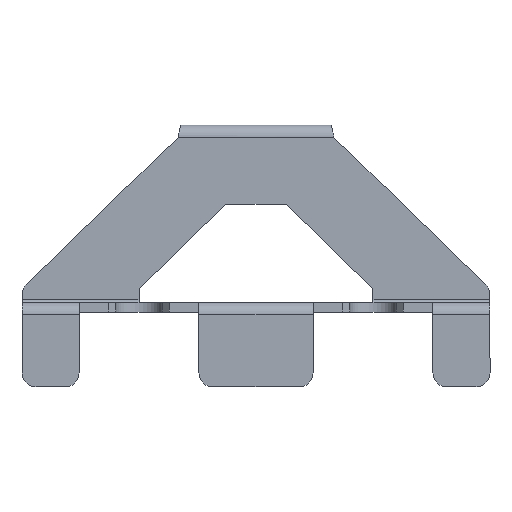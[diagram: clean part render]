
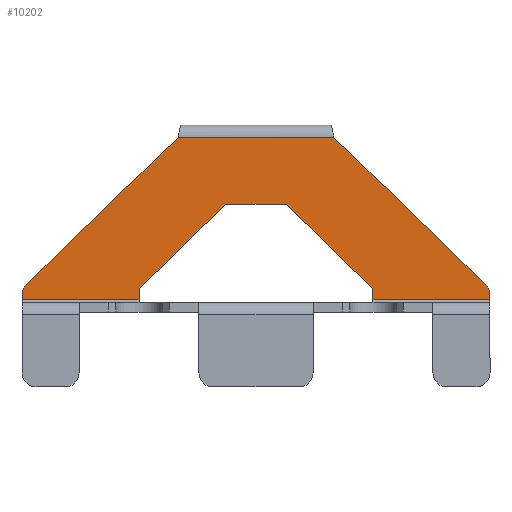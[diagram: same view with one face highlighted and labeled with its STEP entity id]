
A CAD part, front view. The second image highlights one B-rep face of the part: STEP entity #10202.
In plain terms, the highlighted planar face has unit normal (0, -1, 0).
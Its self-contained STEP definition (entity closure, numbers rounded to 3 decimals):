
#703 = DIRECTION ( 'NONE',  ( 0., 0., -1. ) ) ;
#867 = DIRECTION ( 'NONE',  ( -1., 0., 0. ) ) ;
#1256 = CARTESIAN_POINT ( 'NONE',  ( 25., -26.8, -34.95 ) ) ;
#1291 = ORIENTED_EDGE ( 'NONE', *, *, #19111, .F. ) ;
#1551 = AXIS2_PLACEMENT_3D ( 'NONE', #30520, #8631, #27879 ) ;
#1766 = CARTESIAN_POINT ( 'NONE',  ( -25., -26.8, 0. ) ) ;
#2068 = VECTOR ( 'NONE', #23478, 1000. ) ;
#2137 = VECTOR ( 'NONE', #4963, 1000. ) ;
#2358 = DIRECTION ( 'NONE',  ( 0., 1., 0. ) ) ;
#2433 = VERTEX_POINT ( 'NONE', #16130 ) ;
#3100 = VERTEX_POINT ( 'NONE', #25609 ) ;
#3633 = CARTESIAN_POINT ( 'NONE',  ( -5.358, -26.8, -5.529 ) ) ;
#3653 = EDGE_CURVE ( 'NONE', #29523, #23992, #9104, .T. ) ;
#4377 = FACE_OUTER_BOUND ( 'NONE', #26677, .T. ) ;
#4963 = DIRECTION ( 'NONE',  ( 0.718, 0., 0.696 ) ) ;
#5216 = AXIS2_PLACEMENT_3D ( 'NONE', #22879, #25217, #30342 ) ;
#5275 = ORIENTED_EDGE ( 'NONE', *, *, #13767, .F. ) ;
#5369 = CARTESIAN_POINT ( 'NONE',  ( -50., -26.8, -37.35 ) ) ;
#5806 = ORIENTED_EDGE ( 'NONE', *, *, #18346, .T. ) ;
#6085 = VECTOR ( 'NONE', #703, 1000. ) ;
#6130 = LINE ( 'NONE', #1766, #27393 ) ;
#6284 = CARTESIAN_POINT ( 'NONE',  ( -50., -26.8, -37.35 ) ) ;
#6494 = CIRCLE ( 'NONE', #1551, 3. ) ;
#6502 = CARTESIAN_POINT ( 'NONE',  ( 0., -26.8, -16.95 ) ) ;
#7218 = ORIENTED_EDGE ( 'NONE', *, *, #18673, .T. ) ;
#7884 = DIRECTION ( 'NONE',  ( 1., 0., 0. ) ) ;
#7998 = CARTESIAN_POINT ( 'NONE',  ( 25., -26.8, -37.35 ) ) ;
#8314 = DIRECTION ( 'NONE',  ( -1., 0., 0. ) ) ;
#8631 = DIRECTION ( 'NONE',  ( 0., -1., 0. ) ) ;
#8929 = CARTESIAN_POINT ( 'NONE',  ( 25., -26.8, 0. ) ) ;
#9104 = CIRCLE ( 'NONE', #5216, 3. ) ;
#9390 = ORIENTED_EDGE ( 'NONE', *, *, #30143, .F. ) ;
#9596 = CARTESIAN_POINT ( 'NONE',  ( 16.619, -26.8, -2.6 ) ) ;
#9607 = DIRECTION ( 'NONE',  ( 0., 0., 1. ) ) ;
#9676 = VECTOR ( 'NONE', #17607, 1000. ) ;
#10023 = VERTEX_POINT ( 'NONE', #14066 ) ;
#10202 = ADVANCED_FACE ( 'NONE', ( #4377 ), #20685, .F. ) ;
#10458 = ORIENTED_EDGE ( 'NONE', *, *, #16480, .F. ) ;
#11473 = CARTESIAN_POINT ( 'NONE',  ( 5.358, -26.8, -5.529 ) ) ;
#11680 = CARTESIAN_POINT ( 'NONE',  ( 6.426, -26.8, -16.95 ) ) ;
#11900 = CARTESIAN_POINT ( 'NONE',  ( -16.619, -26.8, -2.6 ) ) ;
#11915 = LINE ( 'NONE', #21409, #14935 ) ;
#11932 = LINE ( 'NONE', #11473, #2137 ) ;
#12786 = LINE ( 'NONE', #26797, #6085 ) ;
#12823 = EDGE_CURVE ( 'NONE', #13849, #16662, #26660, .T. ) ;
#13429 = VERTEX_POINT ( 'NONE', #1256 ) ;
#13530 = ORIENTED_EDGE ( 'NONE', *, *, #16058, .T. ) ;
#13767 = EDGE_CURVE ( 'NONE', #2433, #24016, #25382, .T. ) ;
#13849 = VERTEX_POINT ( 'NONE', #15438 ) ;
#13902 = CARTESIAN_POINT ( 'NONE',  ( -16., -26.8, -2. ) ) ;
#13987 = CARTESIAN_POINT ( 'NONE',  ( 50., -26.8, -34.95 ) ) ;
#14066 = CARTESIAN_POINT ( 'NONE',  ( -50., -26.8, -36.22 ) ) ;
#14093 = DIRECTION ( 'NONE',  ( 1., 0., 0. ) ) ;
#14566 = ORIENTED_EDGE ( 'NONE', *, *, #16115, .T. ) ;
#14581 = ORIENTED_EDGE ( 'NONE', *, *, #17118, .F. ) ;
#14666 = ORIENTED_EDGE ( 'NONE', *, *, #24091, .T. ) ;
#14935 = VECTOR ( 'NONE', #9607, 1000. ) ;
#15331 = VERTEX_POINT ( 'NONE', #24686 ) ;
#15438 = CARTESIAN_POINT ( 'NONE',  ( -25., -26.8, -37.35 ) ) ;
#15936 = CARTESIAN_POINT ( 'NONE',  ( -50., -26.8, -37.35 ) ) ;
#16058 = EDGE_CURVE ( 'NONE', #15331, #10023, #6494, .T. ) ;
#16115 = EDGE_CURVE ( 'NONE', #13429, #24016, #28036, .T. ) ;
#16130 = CARTESIAN_POINT ( 'NONE',  ( 50., -26.8, -37.35 ) ) ;
#16166 = DIRECTION ( 'NONE',  ( 0., 0., 1. ) ) ;
#16225 = LINE ( 'NONE', #13902, #28501 ) ;
#16480 = EDGE_CURVE ( 'NONE', #16662, #10023, #11915, .T. ) ;
#16662 = VERTEX_POINT ( 'NONE', #15936 ) ;
#17118 = EDGE_CURVE ( 'NONE', #28526, #23992, #20992, .T. ) ;
#17607 = DIRECTION ( 'NONE',  ( 0.718, 0., -0.696 ) ) ;
#18346 = EDGE_CURVE ( 'NONE', #3100, #19994, #30108, .T. ) ;
#18673 = EDGE_CURVE ( 'NONE', #13849, #26789, #6130, .T. ) ;
#19111 = EDGE_CURVE ( 'NONE', #29523, #2433, #12786, .T. ) ;
#19579 = EDGE_CURVE ( 'NONE', #28654, #28526, #26840, .T. ) ;
#19994 = VERTEX_POINT ( 'NONE', #11680 ) ;
#20169 = ORIENTED_EDGE ( 'NONE', *, *, #3653, .T. ) ;
#20685 = PLANE ( 'NONE',  #29300 ) ;
#20992 = LINE ( 'NONE', #13987, #2068 ) ;
#21374 = VECTOR ( 'NONE', #23368, 1000. ) ;
#21409 = CARTESIAN_POINT ( 'NONE',  ( -50., -26.8, -37.35 ) ) ;
#21495 = ORIENTED_EDGE ( 'NONE', *, *, #19579, .F. ) ;
#22154 = ORIENTED_EDGE ( 'NONE', *, *, #12823, .F. ) ;
#22879 = CARTESIAN_POINT ( 'NONE',  ( 47., -26.8, -36.22 ) ) ;
#22943 = CARTESIAN_POINT ( 'NONE',  ( 16.619, -26.8, -2.6 ) ) ;
#23013 = ORIENTED_EDGE ( 'NONE', *, *, #28029, .T. ) ;
#23014 = CARTESIAN_POINT ( 'NONE',  ( -25., -26.8, -34.95 ) ) ;
#23368 = DIRECTION ( 'NONE',  ( 0., 0., -1. ) ) ;
#23387 = DIRECTION ( 'NONE',  ( 0.718, 0., 0.696 ) ) ;
#23478 = DIRECTION ( 'NONE',  ( 0.718, 0., -0.696 ) ) ;
#23992 = VERTEX_POINT ( 'NONE', #27103 ) ;
#24016 = VERTEX_POINT ( 'NONE', #7998 ) ;
#24091 = EDGE_CURVE ( 'NONE', #26789, #3100, #11932, .T. ) ;
#24602 = LINE ( 'NONE', #3633, #9676 ) ;
#24686 = CARTESIAN_POINT ( 'NONE',  ( -49.088, -26.8, -34.066 ) ) ;
#24892 = VECTOR ( 'NONE', #14093, 1000. ) ;
#25217 = DIRECTION ( 'NONE',  ( 0., -1., 0. ) ) ;
#25382 = LINE ( 'NONE', #6284, #26306 ) ;
#25609 = CARTESIAN_POINT ( 'NONE',  ( -6.426, -26.8, -16.95 ) ) ;
#26214 = CARTESIAN_POINT ( 'NONE',  ( 50., -26.8, -36.22 ) ) ;
#26290 = VECTOR ( 'NONE', #867, 1000. ) ;
#26306 = VECTOR ( 'NONE', #8314, 1000. ) ;
#26660 = LINE ( 'NONE', #5369, #26290 ) ;
#26677 = EDGE_LOOP ( 'NONE', ( #9390, #13530, #10458, #22154, #7218, #14666, #5806, #23013, #14566, #5275, #1291, #20169, #14581, #21495 ) ) ;
#26789 = VERTEX_POINT ( 'NONE', #23014 ) ;
#26797 = CARTESIAN_POINT ( 'NONE',  ( 50., -26.8, -37.35 ) ) ;
#26840 = LINE ( 'NONE', #9596, #30374 ) ;
#27103 = CARTESIAN_POINT ( 'NONE',  ( 49.088, -26.8, -34.066 ) ) ;
#27393 = VECTOR ( 'NONE', #29877, 1000. ) ;
#27879 = DIRECTION ( 'NONE',  ( 0., 0., 1. ) ) ;
#28029 = EDGE_CURVE ( 'NONE', #19994, #13429, #24602, .T. ) ;
#28036 = LINE ( 'NONE', #8929, #21374 ) ;
#28444 = CARTESIAN_POINT ( 'NONE',  ( 0., -26.8, 0. ) ) ;
#28501 = VECTOR ( 'NONE', #23387, 1000. ) ;
#28526 = VERTEX_POINT ( 'NONE', #22943 ) ;
#28654 = VERTEX_POINT ( 'NONE', #11900 ) ;
#29300 = AXIS2_PLACEMENT_3D ( 'NONE', #28444, #2358, #16166 ) ;
#29523 = VERTEX_POINT ( 'NONE', #26214 ) ;
#29877 = DIRECTION ( 'NONE',  ( 0., 0., 1. ) ) ;
#30108 = LINE ( 'NONE', #6502, #24892 ) ;
#30143 = EDGE_CURVE ( 'NONE', #15331, #28654, #16225, .T. ) ;
#30342 = DIRECTION ( 'NONE',  ( 0., 0., 1. ) ) ;
#30374 = VECTOR ( 'NONE', #7884, 1000. ) ;
#30520 = CARTESIAN_POINT ( 'NONE',  ( -47., -26.8, -36.22 ) ) ;
